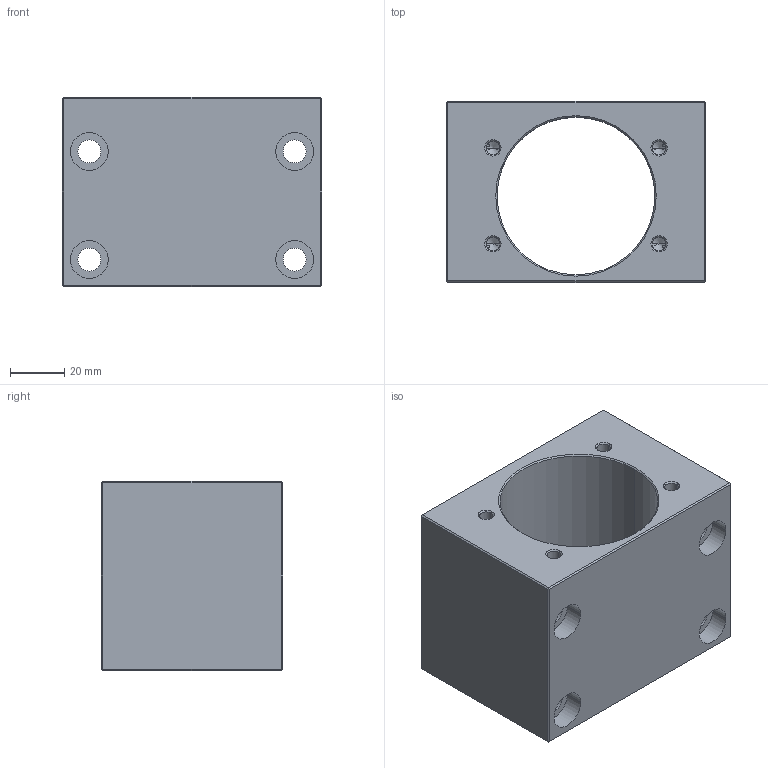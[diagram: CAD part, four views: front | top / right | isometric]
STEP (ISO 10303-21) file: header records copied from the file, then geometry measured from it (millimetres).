
FILE_DESCRIPTION((''),'2;1');
FILE_NAME('NH25E','2020-03-30T',('Administrator'),(''),'PRO/ENGINEER BY PARAMETRIC TECHNOLOGY CORPORATION, 2010280','PRO/ENGINEER BY PARAMETRIC TECHNOLOGY CORPORATION, 2010280','');
FILE_SCHEMA(('CONFIG_CONTROL_DESIGN'));
Length unit declared in the file: millimetre
Products named in the file (1): NH25E
Bounding box: 96 x 67 x 70 mm (x, y, z)
Volume: 243403.9 mm3; surface area: 54367.9 mm2
Topology: 1 solids, 9 shells, 112 faces, 286 edges, 176 vertices
Faces by surface type: cylinder 42, cone 36, plane 34
Entity records: 3443 total; most frequent: CARTESIAN_POINT 673, DIRECTION 616, ORIENTED_EDGE 508, EDGE_CURVE 270, AXIS2_PLACEMENT_3D 245, VERTEX_POINT 176, EDGE_LOOP 138, CIRCLE 132
